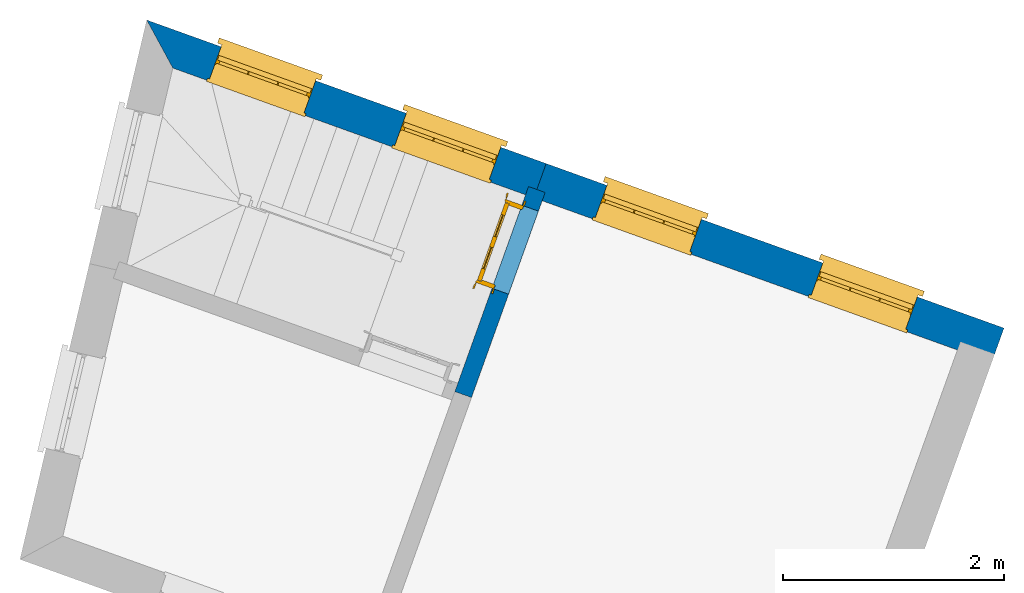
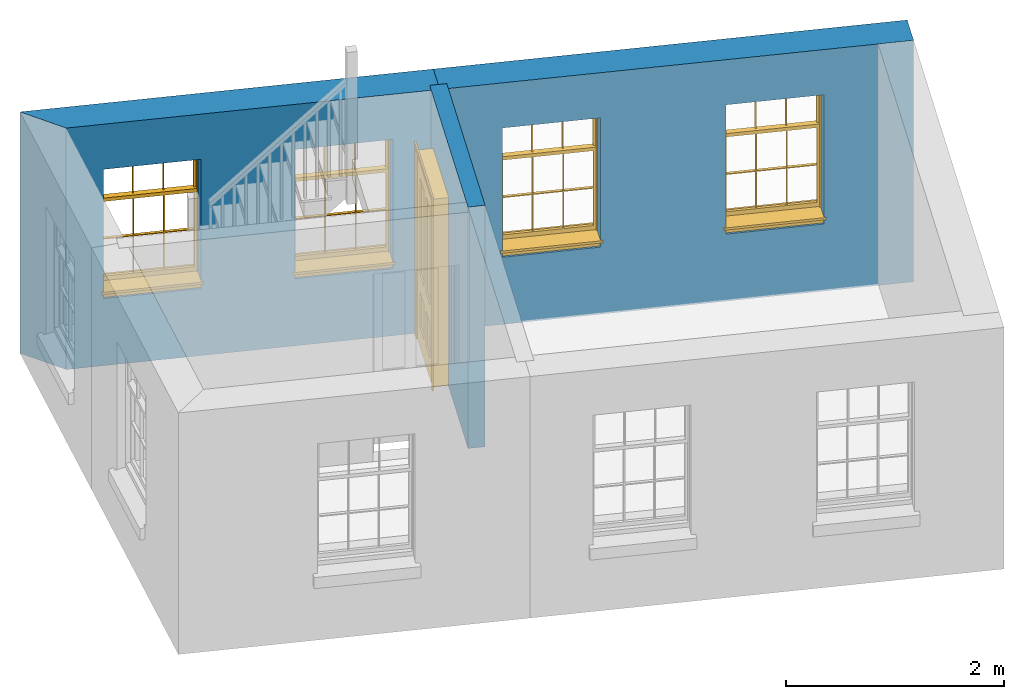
# One storey, part 2 of 3: 4 windows, 3 walls, 1 door, 5 openings.
"""IFC4 building model written with IfcOpenShell, lengths in metres."""

from ifc_helpers import new_model, si_unit, frame, origin, origin_with_axes, place, context, subcontext, project, spatial, polyline, outline, extrude, faceted_brep, source, transform, mapped, material, layer, layer_set, layer_usage, type_object, type_shapes, element, fill, save


model = new_model("IFC4")

# Units and contexts
model_context = context("Model", 3, world=origin_with_axes())
body_context = subcontext(model_context, "Body", "Model", "MODEL_VIEW")
ifc_project = project(units=[si_unit("PLANEANGLEUNIT", "RADIAN"), si_unit("MASSUNIT", "GRAM", prefix="KILO"), si_unit("FORCEUNIT", "NEWTON", prefix="KILO"), si_unit("LENGTHUNIT", "METRE"), si_unit("AREAUNIT", "SQUARE_METRE"), si_unit("VOLUMEUNIT", "CUBIC_METRE")], contexts=[model_context, model_context])

# Sites, building, storey
site_1_placement = place(None, origin_with_axes())
site_1 = spatial("IfcSite", under=ifc_project, at=site_1_placement, Name="Tamar")
site_2_placement = place(site_1_placement, origin_with_axes())
site_2 = spatial("IfcSite", under=site_1, at=site_2_placement, Name="Site plot-22", CompositionType="ELEMENT")
building_placement = place(None, origin_with_axes())
building = spatial("IfcBuilding", under=site_2, at=building_placement, Name="Building plot-22", CompositionType="ELEMENT")
storey_placement = place(None, frame((0.0, 0.0, 27.8), z_axis=(0.0, 0.0, 1.0), x_axis=(1.0, 0.0, 0.0)))
storey = spatial("IfcBuildingStorey", under=building, at=storey_placement, Name="plot-22 1", CompositionType="ELEMENT", Elevation=27.8)

# Wall, openings, windows
ifc_material_1 = material(Name="Masonry")
ifc_layer_1 = layer(ifc_material_1, 0.33, ventilated=False)
ifc_layer_set_1 = layer_set([ifc_layer_1], Name="exterior_0.08_0.25")
ifc_layer_usage_1 = layer_usage(ifc_layer_set_1, "AXIS2", "POSITIVE", -0.25)
wall_type_1 = type_object("IfcWallType", Name="exterior_0.08_0.25", PredefinedType="SOLIDWALL", material=ifc_layer_set_1)
wall_1_placement = place(storey_placement, frame((258.344209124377, 273.617284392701, 0.0), z_axis=(0.0, 0.0, 1.0), x_axis=(-0.941087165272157, 0.338164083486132, 0.0)))
wall_1 = element("IfcWall", 1, at=wall_1_placement, inside=storey, type_object=wall_type_1, material=ifc_layer_usage_1, Name="exterior", context=body_context, shape_type="SweptSolid", body=[
    extrude(outline(polyline([(-0.250000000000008, 0.0799999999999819), (-0.250000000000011, -0.249999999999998), (4.15963962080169, -0.250000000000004), (4.1596396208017, 0.0799999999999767), (-0.250000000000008, 0.0799999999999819)])), origin_with_axes(), (0.0, 0.0, 1.0), 2.7),
])
opening_1_placement = place(wall_1_placement, frame((0.584909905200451, 0.0, 0.75)))
opening_1 = element("IfcOpeningElement", 2, at=opening_1_placement, cuts=wall_1, Name="My Opening", ObjectType="Opening", context=body_context, shape_type="SweptSolid", body=[
    extrude(outline(polyline([(0.0, -0.270000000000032), (0.910000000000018, -0.270000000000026), (0.909999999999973, 1.09999999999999), (-4.47419878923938e-14, 1.09999999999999), (0.0, -0.270000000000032)])), origin_with_axes(), (0.0, 0.0, 1.0), 1.445),
])
opening_2_placement = place(wall_1_placement, frame((2.66472971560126, 0.0, 0.75)))
opening_2 = element("IfcOpeningElement", 3, at=opening_2_placement, cuts=wall_1, Name="My Opening", ObjectType="Opening", context=body_context, shape_type="SweptSolid", body=[
    extrude(outline(polyline([(0.0, -0.270000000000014), (0.910000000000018, -0.270000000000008), (0.910000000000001, 1.10000000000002), (-1.82076576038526e-14, 1.10000000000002), (0.0, -0.270000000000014)])), origin_with_axes(), (0.0, 0.0, 1.0), 1.445),
])
window_type = type_object("IfcWindowType", Name="sash_shorter", PartitioningType="DOUBLE_PANEL_HORIZONTAL", PredefinedType="NOTDEFINED")
shared_shape_1 = source(origin(), body_context, "Body", "Brep", [
    faceted_brep([(0.876875, 0.145, 0.999097), (0.876875, 0.145, 1.411875), (0.9, 0.145, 1.435), (0.033125, 0.145, 1.411875), (0.033125, 0.145, 0.999097), (0.01, 0.145, 1.435), (0.033125, 0.115, 1.411875), (0.01, 0.115, 1.435), (0.033125, 0.115, 0.999097), (0.876875, 0.115, 1.411875), (0.876875, 0.115, 0.999097), (0.9, 0.115, 1.435), (0.033125, 0.145, 0.960972), (0.01, 0.145, 0.960972), (0.033125, 0.145, 0.548195), (0.876875, 0.145, 0.960972), (0.876875, 0.145, 0.548195), (0.9, 0.145, 0.960972), (0.876875, 0.145, 0.538195), (0.876875, 0.145, 0.125417), (0.9, 0.145, 0.077167), (0.033125, 0.145, 0.125417), (0.033125, 0.145, 0.538195), (0.01, 0.145, 0.077167), (0.9, 0.115, 0.960972), (0.01, 0.115, 0.960972), (-0.0425, 0.0, 0.01), (-0.0425, -0.05, 0.001667), (0.0, 0.0, 0.01), (0.9525, 0.0, 0.01), (0.91, 0.0, 0.01), (0.9525, -0.05, 0.001667), (-0.02, 0.33, 0.077167), (0.0, 0.33, 0.077167), (-0.02, 0.36, 0.077167), (0.0, 0.19, 0.077167), (0.01, 0.19, 0.077167), (0.91, 0.19, 0.077167), (0.91, 0.33, 0.077167), (0.9, 0.19, 0.077167), (0.93, 0.33, 0.077167), (0.93, 0.36, 0.077167), (0.01, 0.145, 0.999097), (0.01, 0.175, 0.999097), (0.9, 0.145, 0.999097), (0.9, 0.175, 0.999097), (0.876875, 0.175, 0.125417), (0.876875, 0.175, 0.538195), (0.9, 0.175, 0.077167), (0.876875, 0.175, 0.548195), (0.876875, 0.175, 0.960972), (0.033125, 0.175, 0.125417), (0.01, 0.175, 0.077167), (0.033125, 0.175, 0.538195), (0.033125, 0.175, 0.960972), (0.033125, 0.175, 0.548195), (-0.02, 0.33, 0.052167), (-0.02, 0.36, 0.052167), (0.93, 0.36, 0.052167), (0.93, 0.33, 0.052167), (0.91, 0.33, 0.052167), (0.0, 0.33, 0.052167), (0.91, 0.1, 0.026667), (0.0, 0.1, 0.026667), (-0.0425, -0.05, -0.123333), (0.9525, -0.05, -0.123333), (-0.0425, 0.0, -0.123333), (0.9525, 0.0, -0.123333), (0.01, 0.19, 1.435), (0.9, 0.19, 1.435), (0.0, 0.19, 1.445), (0.91, 0.19, 1.445), (0.01, 0.1, 0.077167), (0.9, 0.1, 0.077167), (0.592292, 0.145, 0.125417), (0.592292, 0.175, 0.125417), (0.317708, 0.175, 0.125417), (0.317708, 0.145, 0.125417), (0.592292, 0.145, 0.548195), (0.317708, 0.145, 0.548195), (0.317708, 0.145, 0.538195), (0.592292, 0.145, 0.538195), (0.592292, 0.175, 0.548195), (0.317708, 0.175, 0.548195), (0.602292, 0.175, 0.548195), (0.602292, 0.145, 0.548195), (0.317708, 0.175, 0.538195), (0.307708, 0.175, 0.125417), (0.307708, 0.175, 0.538195), (0.602292, 0.175, 0.538195), (0.602292, 0.175, 0.125417), (0.592292, 0.175, 0.538195), (0.307708, 0.175, 0.548195), (0.317708, 0.175, 0.960972), (0.307708, 0.175, 0.960972), (0.602292, 0.175, 0.960972), (0.592292, 0.175, 0.960972), (0.307708, 0.145, 0.538195), (0.307708, 0.145, 0.125417), (0.307708, 0.145, 0.548195), (0.307708, 0.145, 0.960972), (0.592292, 0.145, 0.960972), (0.317708, 0.145, 0.960972), (0.602292, 0.145, 0.960972), (0.602292, 0.145, 0.538195), (0.602292, 0.145, 0.125417), (0.317708, 0.115, 1.411875), (0.307708, 0.115, 1.411875), (0.307708, 0.115, 0.999097), (0.317708, 0.115, 0.999097), (0.602292, 0.115, 1.411875), (0.592292, 0.115, 1.411875), (0.592292, 0.115, 0.999097), (0.602292, 0.115, 0.999097), (0.317708, 0.145, 0.999097), (0.307708, 0.145, 0.999097), (0.307708, 0.145, 1.411875), (0.317708, 0.145, 1.411875), (0.602292, 0.145, 0.999097), (0.592292, 0.145, 0.999097), (0.592292, 0.145, 1.411875), (0.602292, 0.145, 1.411875), (0.91, 0.1, 1.445), (0.9, 0.1, 1.435), (0.01, 0.1, 1.435), (0.0, 0.1, 1.445), (0.91, 0.0, 0.0), (0.0, 0.0, 0.0), (0.91, 0.33, 0.0), (0.0, 0.33, 0.0)], [[[0, 1, 2]], [[3, 4, 5]], [[6, 7, 8]], [[9, 10, 11]], [[12, 13, 14]], [[15, 16, 17]], [[18, 19, 20]], [[21, 22, 23]], [[24, 15, 17]], [[13, 12, 25]], [[26, 27, 28]], [[29, 30, 31]], [[32, 33, 34]], [[35, 36, 33]], [[37, 38, 39]], [[40, 41, 38]], [[42, 4, 43]], [[44, 45, 0]], [[46, 47, 48]], [[49, 50, 45]], [[51, 52, 53]], [[54, 55, 43]], [[38, 33, 36, 39]], [[41, 34, 33, 38]], [[56, 32, 34, 57]], [[57, 34, 41, 58]], [[58, 41, 40, 59]], [[57, 58, 60, 61]], [[52, 48, 39, 36]], [[62, 63, 28, 30]], [[27, 31, 30, 28]], [[27, 64, 65, 31]], [[66, 67, 65, 64]], [[2, 5, 68, 69]], [[68, 70, 71, 69]], [[20, 23, 72, 73]], [[73, 72, 63, 62]], [[74, 75, 76, 77]], [[78, 79, 80, 81]], [[78, 82, 83, 79]], [[16, 49, 84, 85]], [[86, 76, 87, 88]], [[89, 90, 75, 91]], [[92, 88, 53, 55]], [[82, 91, 86, 83]], [[93, 83, 92, 94]], [[95, 84, 82, 96]], [[89, 84, 49, 47]], [[97, 88, 87, 98]], [[22, 53, 88, 97]], [[81, 91, 75, 74]], [[80, 86, 91, 81]], [[77, 76, 86, 80]], [[99, 92, 55, 14]], [[100, 94, 92, 99]], [[101, 96, 82, 78]], [[79, 83, 93, 102]], [[85, 84, 95, 103]], [[104, 89, 47, 18]], [[105, 90, 89, 104]], [[104, 18, 16, 85]], [[80, 97, 98, 77]], [[104, 81, 74, 105]], [[103, 101, 78, 85]], [[99, 14, 22, 97]], [[102, 100, 99, 79]], [[106, 107, 108, 109]], [[110, 111, 112, 113]], [[114, 115, 116, 117]], [[118, 119, 120, 121]], [[107, 116, 115, 108]], [[111, 120, 119, 112]], [[109, 114, 117, 106]], [[113, 118, 121, 110]], [[85, 78, 81, 104]], [[84, 89, 91, 82]], [[83, 86, 88, 92]], [[79, 99, 97, 80]], [[109, 112, 119, 114]], [[102, 93, 96, 101]], [[106, 117, 120, 111]], [[98, 87, 51, 21]], [[6, 3, 116, 107]], [[110, 121, 1, 9]], [[19, 46, 90, 105]], [[26, 66, 64, 27]], [[29, 31, 65, 67]], [[25, 24, 112, 109]], [[11, 7, 106, 111]], [[75, 48, 52, 76]], [[43, 45, 96, 93]], [[45, 43, 114, 119]], [[5, 2, 120, 117]], [[24, 25, 102, 101]], [[42, 5, 4]], [[2, 44, 0]], [[49, 45, 48, 47]], [[52, 43, 55, 53]], [[14, 13, 23, 22]], [[20, 17, 16, 18]], [[24, 11, 10]], [[25, 8, 7]], [[8, 4, 3, 6]], [[9, 1, 0, 10]], [[15, 50, 49, 16]], [[18, 47, 46, 19]], [[21, 51, 53, 22]], [[14, 55, 54, 12]], [[44, 2, 69, 45]], [[68, 5, 42, 43]], [[36, 35, 70, 68]], [[39, 69, 71, 37]], [[62, 122, 123, 73]], [[63, 72, 124, 125]], [[8, 108, 115, 4]], [[113, 10, 0, 118]], [[94, 100, 12, 54]], [[17, 20, 73, 24]], [[72, 23, 13, 25]], [[52, 36, 68, 43]], [[69, 39, 48, 45]], [[11, 24, 73, 123]], [[7, 124, 72, 25]], [[23, 77, 98]], [[98, 21, 23]], [[105, 74, 20]], [[20, 19, 105]], [[20, 74, 77, 23]], [[113, 112, 24]], [[24, 10, 113]], [[25, 109, 108]], [[108, 8, 25]], [[110, 9, 11]], [[11, 111, 110]], [[7, 6, 107]], [[107, 106, 7]], [[5, 117, 116]], [[116, 3, 5]], [[121, 120, 2]], [[2, 1, 121]], [[11, 123, 124, 7]], [[122, 125, 124, 123]], [[43, 93, 94]], [[94, 54, 43]], [[96, 45, 95]], [[50, 95, 45]], [[15, 103, 95, 50]], [[48, 75, 90]], [[90, 46, 48]], [[87, 76, 52]], [[52, 51, 87]], [[103, 15, 24]], [[24, 101, 103]], [[100, 102, 25]], [[25, 12, 100]], [[115, 114, 43]], [[43, 4, 115]], [[118, 0, 45]], [[45, 119, 118]], [[71, 70, 125, 122]], [[70, 35, 63, 125]], [[122, 62, 37, 71]], [[126, 67, 66, 127]], [[60, 58, 59]], [[38, 60, 59, 40]], [[61, 56, 57]], [[32, 56, 61, 33]], [[61, 60, 128, 129]], [[62, 60, 38, 37]], [[126, 128, 60, 62]], [[33, 61, 63, 35]], [[61, 129, 127, 63]], [[128, 126, 127, 129]], [[28, 127, 66, 26]], [[63, 127, 28]], [[29, 67, 126, 30]], [[30, 126, 62]]]),
])
type_shapes(window_type, [shared_shape_1])
window_1_placement = place(storey_placement, frame((257.885062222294, 274.069173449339, 0.75), z_axis=(0.0, 0.0, 1.0), x_axis=(-0.856389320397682, 0.307729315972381, 0.0)))
window_1 = element("IfcWindow", 4, at=window_1_placement, inside=storey, type_object=window_type, Name="bedroom outside window", OverallHeight=1.445, OverallWidth=0.91, context=body_context, shape_type="MappedRepresentation", body=[
    mapped(shared_shape_1, transform((0.0, 0.0, 0.0), scale=1.0)),
])
fill(opening_1, window_1)
window_2_placement = place(storey_placement, frame((255.927770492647, 274.772493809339, 0.75), z_axis=(0.0, 0.0, 1.0), x_axis=(-0.856389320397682, 0.307729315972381, 0.0)))
window_2 = element("IfcWindow", 5, at=window_2_placement, inside=storey, type_object=window_type, Name="bedroom outside window", OverallHeight=1.445, OverallWidth=0.91, context=body_context, shape_type="MappedRepresentation", body=[
    mapped(shared_shape_1, transform((0.0, 0.0, 0.0), scale=1.0)),
])
fill(opening_2, window_2)

wall_2_placement = place(storey_placement, frame((254.429625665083, 275.023925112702, 0.0), z_axis=(0.0, 0.0, 1.0), x_axis=(-0.941087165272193, 0.338164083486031, 0.0)))
wall_2 = element("IfcWall", 6, at=wall_2_placement, inside=storey, type_object=wall_type_1, material=ifc_layer_usage_1, Name="exterior", context=body_context, shape_type="SweptSolid", body=[
    extrude(outline(polyline([(5.58265906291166e-15, 0.0799999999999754), (-3.34024049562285e-14, -0.250000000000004), (3.8477904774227, -0.24999999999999), (3.47775004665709, 0.0800000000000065), (5.58265906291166e-15, 0.0799999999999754)])), origin_with_axes(), (0.0, 0.0, 1.0), 2.7),
])
opening_3_placement = place(wall_2_placement, frame((0.43686420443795, 0.0, 0.75)))
opening_3 = element("IfcOpeningElement", 7, at=opening_3_placement, cuts=wall_2, Name="My Opening", ObjectType="Opening", context=body_context, shape_type="SweptSolid", body=[
    extrude(outline(polyline([(0.0, -0.269999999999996), (0.909999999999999, -0.270000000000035), (0.909999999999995, 1.09999999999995), (-4.27435864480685e-15, 1.09999999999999), (0.0, -0.269999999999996)])), origin_with_axes(), (0.0, 0.0, 1.0), 1.445),
])
opening_4_placement = place(wall_2_placement, frame((2.22059261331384, 0.0, 0.75)))
opening_4 = element("IfcOpeningElement", 8, at=opening_4_placement, cuts=wall_2, Name="My Opening", ObjectType="Opening", context=body_context, shape_type="SweptSolid", body=[
    extrude(outline(polyline([(0.0, -0.269999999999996), (0.909999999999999, -0.270000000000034), (0.909999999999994, 1.09999999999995), (-3.99680288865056e-15, 1.09999999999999), (0.0, -0.269999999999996)])), origin_with_axes(), (0.0, 0.0, 1.0), 1.445),
])
window_3_placement = place(storey_placement, frame((254.109802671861, 275.425750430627, 0.75), z_axis=(0.0, 0.0, 1.0), x_axis=(-0.856389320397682, 0.307729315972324, 0.0)))
window_3 = element("IfcWindow", 9, at=window_3_placement, inside=storey, type_object=window_type, Name="circulation outside window", OverallHeight=1.445, OverallWidth=0.91, context=body_context, shape_type="MappedRepresentation", body=[
    mapped(shared_shape_1, transform((0.0, 0.0, 0.0), scale=1.0)),
])
fill(opening_3, window_3)
window_4_placement = place(storey_placement, frame((252.431158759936, 276.028943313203, 0.75), z_axis=(0.0, 0.0, 1.0), x_axis=(-0.856389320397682, 0.307729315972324, 0.0)))
window_4 = element("IfcWindow", 10, at=window_4_placement, inside=storey, type_object=window_type, Name="circulation outside window", OverallHeight=1.445, OverallWidth=0.91, context=body_context, shape_type="MappedRepresentation", body=[
    mapped(shared_shape_1, transform((0.0, 0.0, 0.0), scale=1.0)),
])
fill(opening_4, window_4)

# Wall, opening, door
ifc_material_2 = material(Name="Masonry")
ifc_layer_2 = layer(ifc_material_2, 0.16, ventilated=False)
ifc_layer_set_2 = layer_set([ifc_layer_2], Name="interior_0.08_0.08")
ifc_layer_usage_2 = layer_usage(ifc_layer_set_2, "AXIS2", "POSITIVE", -0.08)
wall_type_2 = type_object("IfcWallType", Name="interior_0.08_0.08", PredefinedType="SOLIDWALL", material=ifc_layer_set_2)
wall_3_placement = place(storey_placement, frame((253.76162339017, 273.164921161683, 0.0), z_axis=(0.0, 0.0, 1.0), x_axis=(0.338164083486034, 0.941087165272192, 0.0)))
wall_3 = element("IfcWall", 11, at=wall_3_placement, inside=storey, type_object=wall_type_2, material=ifc_layer_usage_2, Name="interior", context=body_context, shape_type="SweptSolid", body=[
    extrude(outline(polyline([(-4.38270280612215e-15, 0.0800000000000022), (4.37473641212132e-15, -0.0800000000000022), (1.97537913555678, -0.0800000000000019), (1.97537913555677, 0.0800000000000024), (-4.38270280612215e-15, 0.0800000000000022)])), origin_with_axes(), (0.0, 0.0, 1.0), 2.7),
])
opening_5_placement = place(wall_3_placement, frame((0.995379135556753, 0.0, 0.0199999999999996)))
opening_5 = element("IfcOpeningElement", 12, at=opening_5_placement, cuts=wall_3, Name="My Opening", ObjectType="Opening", context=body_context, shape_type="SweptSolid", body=[
    extrude(outline(polyline([(0.0, -0.10000000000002), (0.799999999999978, -0.100000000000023), (0.800000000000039, 1.09999999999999), (6.0285110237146e-14, 1.1), (0.0, -0.10000000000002)])), origin_with_axes(), (0.0, 0.0, 1.0), 2.1),
])
door_type = type_object("IfcDoorType", Name="door_inside", OperationType="SINGLE_SWING_LEFT", PredefinedType="NOTDEFINED")
shared_shape_2 = source(origin(), body_context, "Body", "Brep", [
    faceted_brep([(0.773, 0.33, 1.895), (0.66, 0.33, 1.895), (0.66, 0.33, 2.073), (0.773, 0.33, 2.073), (0.773, 0.33, 0.82), (0.66, 0.33, 0.82), (0.45, 0.33, 1.895), (0.45, 0.33, 2.073), (0.773, 0.33, 0.62), (0.66, 0.33, 0.62), (0.66, 0.315, 0.82), (0.66, 0.315, 1.895), (0.45, 0.315, 1.895), (0.35, 0.33, 1.895), (0.35, 0.33, 2.073), (0.773, 0.33, 0.225), (0.66, 0.33, 0.225), (0.45, 0.33, 0.62), (0.45, 0.33, 0.82), (0.45, 0.315, 0.82), (0.35, 0.33, 0.82), (0.14, 0.33, 2.073), (0.14, 0.33, 1.895), (0.773, 0.33, 0.0), (0.66, 0.33, 0.0), (0.66, 0.315, 0.225), (0.66, 0.315, 0.62), (0.45, 0.315, 0.62), (0.35, 0.33, 0.62), (0.35, 0.315, 0.82), (0.35, 0.315, 1.895), (0.14, 0.315, 1.895), (0.027, 0.33, 2.073), (0.027, 0.33, 1.895), (0.773, 0.292, 0.0), (0.66, 0.292, 0.0), (0.45, 0.33, 0.0), (0.45, 0.33, 0.225), (0.45, 0.315, 0.225), (0.35, 0.33, 0.225), (0.14, 0.33, 0.82), (0.14, 0.33, 0.62), (0.14, 0.315, 0.82), (0.027, 0.33, 0.82), (0.773, 0.292, 0.225), (0.66, 0.292, 0.225), (0.45, 0.292, 0.0), (0.35, 0.33, 0.0), (0.35, 0.315, 0.225), (0.35, 0.315, 0.62), (0.14, 0.315, 0.62), (0.027, 0.33, 0.62), (0.773, 0.292, 0.62), (0.66, 0.292, 0.62), (0.45, 0.292, 0.225), (0.35, 0.292, 0.0), (0.14, 0.33, 0.225), (0.14, 0.33, 0.0), (0.14, 0.315, 0.225), (0.027, 0.33, 0.225), (0.773, 0.292, 0.82), (0.66, 0.292, 0.82), (0.66, 0.307, 0.62), (0.66, 0.307, 0.225), (0.45, 0.307, 0.225), (0.35, 0.292, 0.225), (0.14, 0.292, 0.0), (0.027, 0.33, 0.0), (0.773, 0.292, 1.895), (0.66, 0.292, 1.895), (0.45, 0.292, 0.62), (0.45, 0.292, 0.82), (0.45, 0.307, 0.62), (0.35, 0.292, 0.62), (0.14, 0.292, 0.225), (0.027, 0.292, 0.0), (0.773, 0.292, 2.073), (0.66, 0.292, 2.073), (0.66, 0.307, 1.895), (0.66, 0.307, 0.82), (0.45, 0.307, 0.82), (0.35, 0.292, 0.82), (0.35, 0.307, 0.62), (0.35, 0.307, 0.225), (0.14, 0.307, 0.225), (0.027, 0.292, 0.225), (0.45, 0.292, 1.895), (0.45, 0.292, 2.073), (0.45, 0.307, 1.895), (0.35, 0.292, 1.895), (0.14, 0.292, 0.82), (0.14, 0.292, 0.62), (0.14, 0.307, 0.62), (0.027, 0.292, 0.62), (0.35, 0.292, 2.073), (0.35, 0.307, 1.895), (0.35, 0.307, 0.82), (0.14, 0.307, 0.82), (0.027, 0.292, 0.82), (0.14, 0.292, 2.073), (0.14, 0.292, 1.895), (0.14, 0.307, 1.895), (0.027, 0.292, 1.895), (0.027, 0.292, 2.073), (0.02, 0.335, 0.0), (0.005, 0.34, 0.0), (0.005, 0.34, 2.095), (0.02, 0.335, 2.08), (0.02, 0.33, 0.0), (0.0, 0.335, 0.0), (0.0, 0.335, 2.1), (0.795, 0.34, 2.095), (0.78, 0.335, 2.08), (0.02, 0.33, 2.08), (0.0, 0.33, 0.0), (-0.032, 0.345, 0.0), (-0.032, 0.345, 2.132), (0.8, 0.335, 2.1), (0.795, 0.34, 0.0), (0.78, 0.335, 0.0), (0.78, 0.33, 2.08), (0.04, 0.29, 0.0), (0.025, 0.29, 0.0), (0.025, 0.29, 2.075), (0.04, 0.29, 2.06), (-0.04, 0.34, 0.0), (-0.04, 0.34, 2.14), (0.832, 0.345, 2.132), (0.8, 0.335, 0.0), (0.78, 0.33, 0.0), (0.8, 0.33, 0.0), (0.86, 0.33, 0.0), (0.86, 0.33, 2.16), (0.8, 0.33, 2.1), (-0.06, 0.33, 2.16), (0.0, 0.33, 2.1), (-0.06, 0.33, 0.0), (-0.04, 0.345, 0.0), (-0.04, 0.345, 2.14), (0.84, 0.34, 2.14), (0.832, 0.345, 0.0), (0.84, 0.34, 0.0), (0.86, 0.345, 0.0), (0.86, 0.345, 2.16), (-0.06, 0.345, 2.16), (-0.06, 0.345, 0.0), (0.84, 0.345, 0.0), (0.84, 0.345, 2.14), (-0.025, 0.155, 0.0), (-0.025, 0.16, 0.0), (-0.025, 0.16, 2.125), (-0.025, 0.155, 2.125), (-0.017, 0.155, 0.0), (-0.017, 0.155, 2.117), (0.825, 0.16, 2.125), (0.825, 0.155, 2.125), (0.825, 0.155, 0.0), (0.845, 0.155, 0.0), (-0.045, 0.155, 2.145), (-0.045, 0.155, 0.0), (0.845, 0.155, 2.145), (0.015, 0.165, 0.0), (0.015, 0.165, 2.085), (0.817, 0.155, 2.117), (0.825, 0.16, 0.0), (0.845, 0.17, 0.0), (0.845, 0.17, 2.145), (-0.045, 0.17, 2.145), (-0.045, 0.17, 0.0), (0.02, 0.16, 0.0), (0.02, 0.16, 2.08), (0.785, 0.165, 2.085), (0.817, 0.155, 0.0), (0.8, 0.17, 0.0), (0.8, 0.17, 2.1), (0.0, 0.17, 2.1), (0.0, 0.17, 0.0), (0.035, 0.165, 0.0), (0.035, 0.165, 2.065), (0.78, 0.16, 2.08), (0.785, 0.165, 0.0), (0.775, 0.29, 2.075), (0.76, 0.29, 2.06), (0.035, 0.17, 2.065), (0.035, 0.17, 0.0), (0.765, 0.165, 2.065), (0.78, 0.16, 0.0), (0.765, 0.17, 0.0), (0.765, 0.17, 2.065), (0.765, 0.165, 0.0), (0.04, 0.17, 2.06), (0.04, 0.17, 0.0), (0.76, 0.17, 2.06), (0.76, 0.17, 0.0), (0.76, 0.29, 0.0), (0.775, 0.29, 0.0), (0.025, 0.33, 0.0), (0.025, 0.33, 2.075), (0.775, 0.33, 0.0), (0.775, 0.33, 2.075)], [[[0, 1, 2, 3]], [[1, 0, 4, 5]], [[1, 6, 7, 2]], [[8, 9, 5, 4]], [[1, 5, 10, 11]], [[6, 1, 11, 12]], [[6, 13, 14, 7]], [[15, 16, 9, 8]], [[9, 17, 18, 5]], [[5, 18, 19, 10]], [[10, 19, 12, 11]], [[18, 6, 12, 19]], [[18, 20, 13, 6]], [[21, 14, 13, 22]], [[23, 24, 16, 15]], [[9, 16, 25, 26]], [[17, 9, 26, 27]], [[17, 28, 20, 18]], [[13, 20, 29, 30]], [[22, 13, 30, 31]], [[32, 21, 22, 33]], [[34, 35, 24, 23]], [[24, 36, 37, 16]], [[16, 37, 38, 25]], [[25, 38, 27, 26]], [[37, 17, 27, 38]], [[37, 39, 28, 17]], [[40, 20, 28, 41]], [[20, 40, 42, 29]], [[31, 30, 29, 42]], [[40, 22, 31, 42]], [[33, 22, 40, 43]], [[35, 34, 44, 45]], [[35, 46, 36, 24]], [[36, 47, 39, 37]], [[28, 39, 48, 49]], [[41, 28, 49, 50]], [[43, 40, 41, 51]], [[45, 44, 52, 53]], [[46, 35, 45, 54]], [[46, 55, 47, 36]], [[56, 39, 47, 57]], [[39, 56, 58, 48]], [[50, 49, 48, 58]], [[56, 41, 50, 58]], [[51, 41, 56, 59]], [[53, 52, 60, 61]], [[45, 53, 62, 63]], [[54, 45, 63, 64]], [[55, 46, 54, 65]], [[55, 66, 57, 47]], [[59, 56, 57, 67]], [[61, 60, 68, 69]], [[70, 53, 61, 71]], [[53, 70, 72, 62]], [[72, 64, 63, 62]], [[70, 54, 64, 72]], [[65, 54, 70, 73]], [[65, 74, 66, 55]], [[67, 57, 66, 75]], [[69, 68, 76, 77]], [[61, 69, 78, 79]], [[71, 61, 79, 80]], [[73, 70, 71, 81]], [[65, 73, 82, 83]], [[74, 65, 83, 84]], [[74, 85, 75, 66]], [[86, 69, 77, 87]], [[69, 86, 88, 78]], [[88, 80, 79, 78]], [[86, 71, 80, 88]], [[81, 71, 86, 89]], [[73, 81, 90, 91]], [[73, 91, 92, 82]], [[83, 82, 92, 84]], [[91, 74, 84, 92]], [[91, 93, 85, 74]], [[89, 86, 87, 94]], [[81, 89, 95, 96]], [[90, 81, 96, 97]], [[90, 98, 93, 91]], [[94, 99, 100, 89]], [[89, 100, 101, 95]], [[101, 97, 96, 95]], [[100, 90, 97, 101]], [[100, 102, 98, 90]], [[99, 103, 102, 100]], [[32, 103, 99, 21]], [[102, 103, 32, 33]], [[98, 102, 33, 43]], [[21, 99, 94, 14]], [[94, 87, 7, 14]], [[7, 87, 77, 2]], [[76, 3, 2, 77]], [[43, 51, 93, 98]], [[51, 59, 85, 93]], [[67, 75, 85, 59]], [[34, 23, 15, 44]], [[44, 15, 8, 52]], [[52, 8, 4, 60]], [[0, 68, 60, 4]], [[0, 3, 76, 68]], [[104, 105, 106, 107]], [[104, 108, 109, 105]], [[105, 109, 110, 106]], [[107, 106, 111, 112]], [[107, 113, 108, 104]], [[114, 109, 108]], [[109, 115, 116, 110]], [[106, 110, 117, 111]], [[112, 111, 118, 119]], [[113, 107, 112, 120]], [[121, 122, 123, 124]], [[115, 109, 114, 125]], [[115, 125, 126, 116]], [[110, 116, 127, 117]], [[111, 117, 128, 118]], [[118, 128, 129, 119]], [[120, 112, 119, 129]], [[130, 129, 128]], [[130, 131, 132, 133]], [[133, 132, 134, 135]], [[135, 134, 136, 114]], [[136, 125, 114]], [[125, 137, 138, 126]], [[116, 126, 139, 127]], [[117, 127, 140, 128]], [[141, 130, 128, 140]], [[131, 130, 141]], [[131, 142, 143, 132]], [[132, 143, 144, 134]], [[134, 144, 145, 136]], [[137, 125, 136, 145]], [[143, 142, 146]], [[143, 146, 147]], [[137, 145, 144]], [[143, 147, 138]], [[138, 137, 144]], [[143, 138, 144]], [[126, 138, 147, 139]], [[127, 139, 141, 140]], [[142, 131, 141, 146]], [[139, 147, 146, 141]], [[148, 149, 150, 151]], [[149, 152, 153, 150]], [[151, 150, 154, 155]], [[155, 156, 157]], [[158, 159, 148]], [[158, 148, 151]], [[155, 157, 160]], [[158, 151, 155]], [[155, 160, 158]], [[152, 161, 162, 153]], [[150, 153, 163, 154]], [[155, 154, 164, 156]], [[156, 164, 165, 157]], [[157, 165, 166, 160]], [[160, 166, 167, 158]], [[158, 167, 168, 159]], [[161, 169, 170, 162]], [[153, 162, 171, 163]], [[154, 163, 172, 164]], [[165, 164, 173]], [[165, 173, 174, 166]], [[166, 174, 175, 167]], [[167, 175, 176, 168]], [[169, 177, 178, 170]], [[162, 170, 179, 171]], [[163, 171, 180, 172]], [[172, 180, 173, 164]], [[124, 123, 181, 182]], [[183, 178, 177, 184]], [[170, 178, 185, 179]], [[171, 179, 186, 180]], [[187, 173, 180]], [[185, 188, 187, 189]], [[188, 185, 178, 183]], [[179, 185, 189, 186]], [[189, 187, 180, 186]], [[190, 183, 184, 191]], [[192, 188, 183, 190]], [[191, 184, 122, 121]], [[124, 190, 191, 121]], [[193, 187, 188, 192]], [[182, 192, 190, 124]], [[184, 176, 122]], [[194, 195, 187, 193]], [[192, 182, 194, 193]], [[161, 176, 184]], [[114, 108, 122, 176]], [[173, 187, 195]], [[152, 149, 176, 161]], [[169, 161, 184, 177]], [[196, 122, 108]], [[176, 175, 135, 114]], [[173, 195, 129, 130]], [[176, 149, 168]], [[123, 122, 196, 197]], [[196, 108, 113, 197]], [[175, 174, 133, 135]], [[198, 129, 195]], [[133, 174, 173, 130]], [[159, 168, 149, 148]], [[181, 123, 197, 199]], [[197, 113, 120, 199]], [[199, 120, 129, 198]], [[195, 181, 199, 198]], [[195, 194, 182, 181]]]),
])
type_shapes(door_type, [shared_shape_2])
door_placement = place(storey_placement, frame((254.192333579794, 274.067843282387, 0.0199999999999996), z_axis=(0.0, 0.0, 1.0), x_axis=(0.270531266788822, 0.752869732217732, 0.0)))
door = element("IfcDoor", 13, at=door_placement, inside=storey, type_object=door_type, Name="bedroom inside door", OverallHeight=2.1, OverallWidth=0.8, context=body_context, shape_type="MappedRepresentation", body=[
    mapped(shared_shape_2, transform((0.0, 0.0, 0.0), scale=1.0)),
])
fill(opening_5, door)

save(model, "model.ifc")
